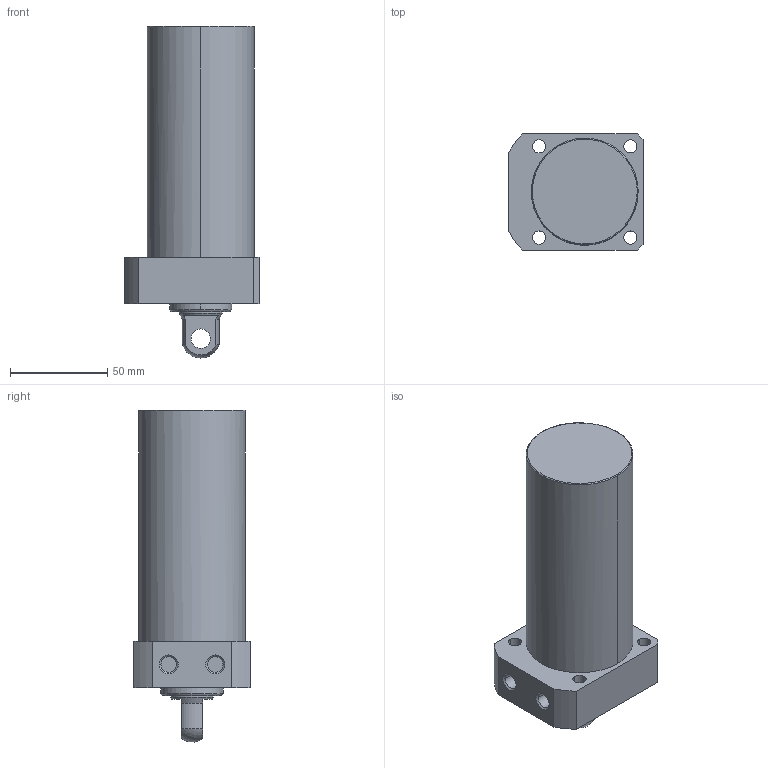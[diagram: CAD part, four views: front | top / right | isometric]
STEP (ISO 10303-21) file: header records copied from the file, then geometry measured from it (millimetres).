
FILE_DESCRIPTION((' '),'2;1');
FILE_NAME( 'TLLR-055CP-090.STEP.stp', '2025-10-24T16:34:51', (' '), ('--- Datakit www.datakit.com---'), ' Datakit CrossCadWare V2024.1 Dec 21 2023', 'Mastercam 2025', ' ');
FILE_SCHEMA(('AUTOMOTIVE_DESIGN { 1 0 10303 214 1 1 1 1 }'));
Length unit declared in the file: millimetre
Products named in the file (1): TLLR-055CP-090
Bounding box: 69 x 60 x 170.93 mm (x, y, z)
Volume: 382247.6 mm3; surface area: 38779.8 mm2
Topology: 1 solids, 1 shells, 57 faces, 164 edges, 116 vertices
Faces by surface type: cylinder 28, plane 18, cone 8, torus 2, sphere 1
Entity records: 2006 total; most frequent: DIRECTION 378, CARTESIAN_POINT 350, ORIENTED_EDGE 328, EDGE_CURVE 164, AXIS2_PLACEMENT_3D 160, VERTEX_POINT 116, CIRCLE 102, EDGE_LOOP 74
